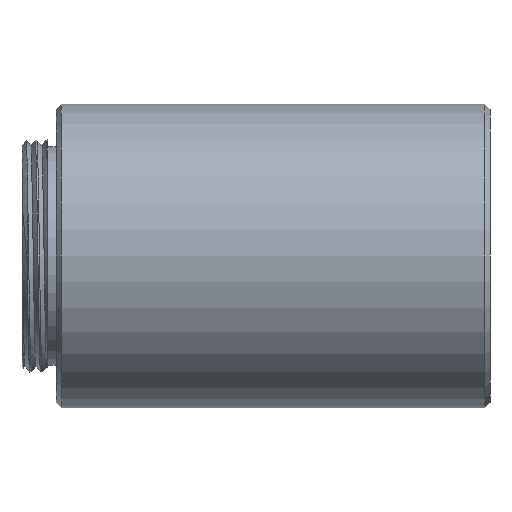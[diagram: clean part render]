
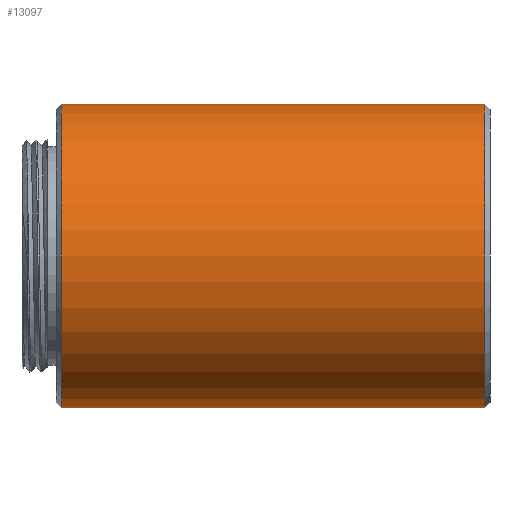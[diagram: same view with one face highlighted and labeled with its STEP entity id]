
A CAD part, front view. The second image highlights one B-rep face of the part: STEP entity #13097.
In plain terms, the highlighted cylindrical face has radius 8.89 mm (diameter 17.78 mm), a partial arc.
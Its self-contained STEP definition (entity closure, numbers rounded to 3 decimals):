
#5768=DIRECTION('',(1.,0.,0.));
#5769=VECTOR('',#5768,24.8);
#5770=CARTESIAN_POINT('',(0.3,0.,
-8.89));
#5771=LINE('',#5770,#5769);
#5772=CARTESIAN_POINT('',(25.1,0.,0.));
#5773=DIRECTION('',(1.,0.,0.));
#5774=DIRECTION('',(0.,0.,1.));
#5775=AXIS2_PLACEMENT_3D('',#5772,#5773,#5774);
#5777=CARTESIAN_POINT('',(0.3,0.,0.));
#5778=DIRECTION('',(-1.,0.,0.));
#5779=DIRECTION('',(0.,0.,-1.));
#5780=AXIS2_PLACEMENT_3D('',#5777,#5778,#5779);
#5782=DIRECTION('',(1.,0.,0.));
#5783=VECTOR('',#5782,24.8);
#5784=CARTESIAN_POINT('',(0.3,0.,
8.89));
#5785=LINE('',#5784,#5783);
#6022=CARTESIAN_POINT('',(0.3,0.,-8.89));
#6023=CARTESIAN_POINT('',(0.3,0.,8.89));
#6024=VERTEX_POINT('',#6022);
#6025=VERTEX_POINT('',#6023);
#6030=CARTESIAN_POINT('',(25.1,0.,8.89));
#6031=CARTESIAN_POINT('',(25.1,0.,-8.89));
#6032=VERTEX_POINT('',#6030);
#6033=VERTEX_POINT('',#6031);
#13085=CARTESIAN_POINT('',(0.,0.,0.));
#13086=DIRECTION('',(1.,0.,0.));
#13087=DIRECTION('',(0.,0.,-1.));
#13088=AXIS2_PLACEMENT_3D('',#13085,#13086,#13087);
#13089=CYLINDRICAL_SURFACE('',#13088,8.89);
#13090=ORIENTED_EDGE('',*,*,#13050,.T.);
#13091=ORIENTED_EDGE('',*,*,#13080,.F.);
#13093=ORIENTED_EDGE('',*,*,#13092,.T.);
#13094=ORIENTED_EDGE('',*,*,#13076,.T.);
#13095=EDGE_LOOP('',(#13090,#13091,#13093,#13094));
#13096=FACE_OUTER_BOUND('',#13095,.F.);
#13097=ADVANCED_FACE('',(#13096),#13089,.T.);
#5776=CIRCLE('',#5775,8.89);
#5781=CIRCLE('',#5780,8.89);
#13050=EDGE_CURVE('',#6032,#6033,#5776,.T.);
#13076=EDGE_CURVE('',#6025,#6032,#5785,.T.);
#13080=EDGE_CURVE('',#6024,#6033,#5771,.T.);
#13092=EDGE_CURVE('',#6024,#6025,#5781,.T.);
